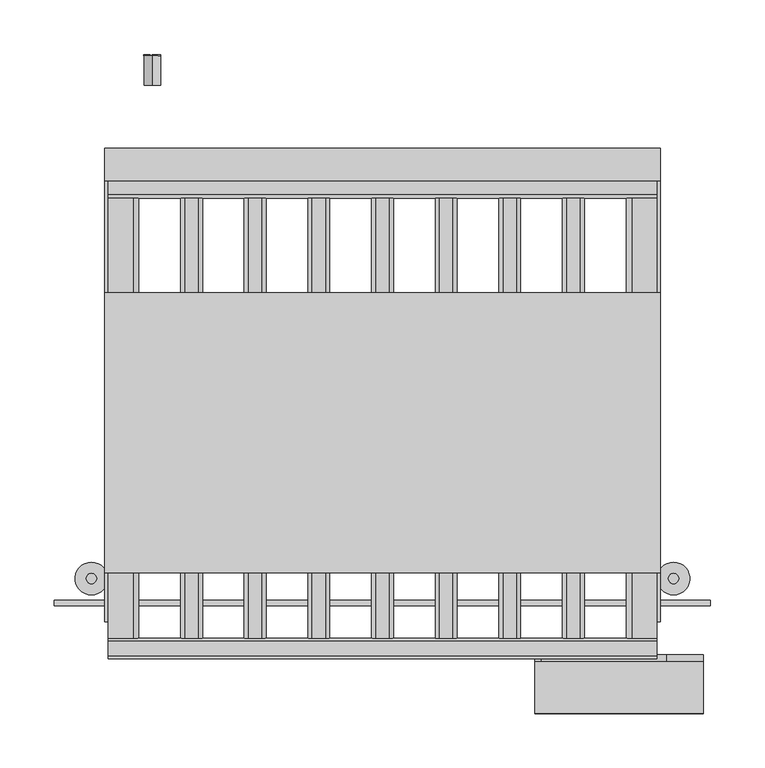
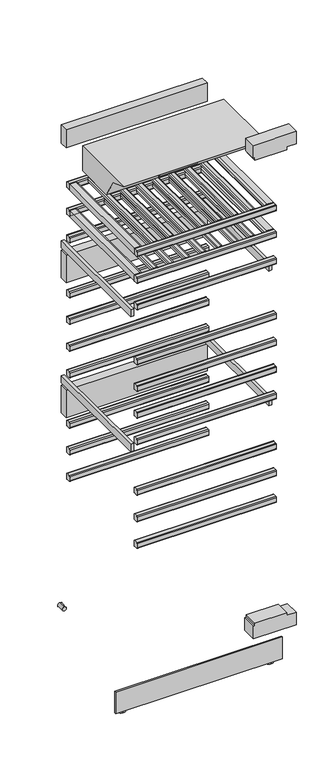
"""IFC4 building model written with IfcOpenShell, lengths in millimetres: proxy geometry, 11503590_USA_KWT2602Vi : 36260205_USA_11503590_KWT2602Vi."""

from ifc_helpers import new_model, si_unit, point, frame, frame_2d, origin, place, context, project, spatial, polyline, circle_curve, trimmed, segment, composite_curve, outline, extrude, source, transform, mapped, element, save
from ifc_brep_helpers import plane_surface, cylinder_surface, advanced_brep


def specialty_equipment_7431087e(model_context):
    return source(origin(), model_context, "Body", "SolidModel", [
        extrude(outline(composite_curve([segment(polyline([(53.0, 680.0), (66.0, 680.0)]), True, "CONTINUOUS"), segment(trimmed(circle_curve(frame_2d((66.0, 677.0)), 3.0), [point((66.0, 680.0))], [point((69.0, 677.0))], False, "CARTESIAN"), True, "CONTINUOUS"), segment(polyline([(69.0, 677.0), (69.0, 661.0)]), True, "CONTINUOUS"), segment(trimmed(circle_curve(frame_2d((66.0, 661.0)), 3.0), [point((69.0, 661.0))], [point((66.0, 658.0))], False, "CARTESIAN"), True, "CONTINUOUS"), segment(polyline([(66.0, 658.0), (53.0, 658.0)]), True, "CONTINUOUS"), segment(trimmed(circle_curve(frame_2d((53.0, 661.0)), 3.0), [point((53.0, 658.0))], [point((50.0, 661.0))], False, "CARTESIAN"), True, "CONTINUOUS"), segment(polyline([(50.0, 661.0), (50.0, 677.0)]), True, "CONTINUOUS"), segment(trimmed(circle_curve(frame_2d((53.0, 677.0)), 3.0), [point((50.0, 677.0))], [point((53.0, 680.0))], False, "CARTESIAN"), True, "CONTINUOUS")], self_intersect=False)), frame((-252.0, 0.0, 0.0), z_axis=(1.0, 0.0, 0.0), x_axis=(0.0, 1.0, 0.0)), (0.0, 0.0, 1.0), 504.0),
        extrude(outline(composite_curve([segment(polyline([(476.0, 680.0), (489.0, 680.0)]), True, "CONTINUOUS"), segment(trimmed(circle_curve(frame_2d((489.0, 677.0)), 3.0), [point((489.0, 680.0))], [point((492.0, 677.0))], False, "CARTESIAN"), True, "CONTINUOUS"), segment(polyline([(492.0, 677.0), (492.0, 661.0)]), True, "CONTINUOUS"), segment(trimmed(circle_curve(frame_2d((489.0, 661.0)), 3.0), [point((492.0, 661.0))], [point((489.0, 658.0))], False, "CARTESIAN"), True, "CONTINUOUS"), segment(polyline([(489.0, 658.0), (476.0, 658.0)]), True, "CONTINUOUS"), segment(trimmed(circle_curve(frame_2d((476.0, 661.0)), 3.0), [point((476.0, 658.0))], [point((473.0, 661.0))], False, "CARTESIAN"), True, "CONTINUOUS"), segment(polyline([(473.0, 661.0), (473.0, 677.0)]), True, "CONTINUOUS"), segment(trimmed(circle_curve(frame_2d((476.0, 677.0)), 3.0), [point((473.0, 677.0))], [point((476.0, 680.0))], False, "CARTESIAN"), True, "CONTINUOUS")], self_intersect=False)), frame((-252.0, 0.0, 0.0), z_axis=(1.0, 0.0, 0.0), x_axis=(0.0, 1.0, 0.0)), (0.0, 0.0, 1.0), 504.0),
        extrude(outline(composite_curve([segment(polyline([(53.0, 782.0), (66.0, 782.0)]), True, "CONTINUOUS"), segment(trimmed(circle_curve(frame_2d((66.0, 779.0)), 3.0), [point((66.0, 782.0))], [point((69.0, 779.0))], False, "CARTESIAN"), True, "CONTINUOUS"), segment(polyline([(69.0, 779.0), (69.0, 763.0)]), True, "CONTINUOUS"), segment(trimmed(circle_curve(frame_2d((66.0, 763.0)), 3.0), [point((69.0, 763.0))], [point((66.0, 760.0))], False, "CARTESIAN"), True, "CONTINUOUS"), segment(polyline([(66.0, 760.0), (53.0, 760.0)]), True, "CONTINUOUS"), segment(trimmed(circle_curve(frame_2d((53.0, 763.0)), 3.0), [point((53.0, 760.0))], [point((50.0, 763.0))], False, "CARTESIAN"), True, "CONTINUOUS"), segment(polyline([(50.0, 763.0), (50.0, 779.0)]), True, "CONTINUOUS"), segment(trimmed(circle_curve(frame_2d((53.0, 779.0)), 3.0), [point((50.0, 779.0))], [point((53.0, 782.0))], False, "CARTESIAN"), True, "CONTINUOUS")], self_intersect=False)), frame((-252.0, 0.0, 0.0), z_axis=(1.0, 0.0, 0.0), x_axis=(0.0, 1.0, 0.0)), (0.0, 0.0, 1.0), 504.0),
        extrude(outline(composite_curve([segment(polyline([(476.0, 782.0), (489.0, 782.0)]), True, "CONTINUOUS"), segment(trimmed(circle_curve(frame_2d((489.0, 779.0)), 3.0), [point((489.0, 782.0))], [point((492.0, 779.0))], False, "CARTESIAN"), True, "CONTINUOUS"), segment(polyline([(492.0, 779.0), (492.0, 763.0)]), True, "CONTINUOUS"), segment(trimmed(circle_curve(frame_2d((489.0, 763.0)), 3.0), [point((492.0, 763.0))], [point((489.0, 760.0))], False, "CARTESIAN"), True, "CONTINUOUS"), segment(polyline([(489.0, 760.0), (476.0, 760.0)]), True, "CONTINUOUS"), segment(trimmed(circle_curve(frame_2d((476.0, 763.0)), 3.0), [point((476.0, 760.0))], [point((473.0, 763.0))], False, "CARTESIAN"), True, "CONTINUOUS"), segment(polyline([(473.0, 763.0), (473.0, 779.0)]), True, "CONTINUOUS"), segment(trimmed(circle_curve(frame_2d((476.0, 779.0)), 3.0), [point((473.0, 779.0))], [point((476.0, 782.0))], False, "CARTESIAN"), True, "CONTINUOUS")], self_intersect=False)), frame((-252.0, 0.0, 0.0), z_axis=(1.0, 0.0, 0.0), x_axis=(0.0, 1.0, 0.0)), (0.0, 0.0, 1.0), 504.0),
        extrude(outline(composite_curve([segment(polyline([(53.0, 884.0), (66.0, 884.0)]), True, "CONTINUOUS"), segment(trimmed(circle_curve(frame_2d((66.0, 881.0)), 3.0), [point((66.0, 884.0))], [point((69.0, 881.0))], False, "CARTESIAN"), True, "CONTINUOUS"), segment(polyline([(69.0, 881.0), (69.0, 865.0)]), True, "CONTINUOUS"), segment(trimmed(circle_curve(frame_2d((66.0, 865.0)), 3.0), [point((69.0, 865.0))], [point((66.0, 862.0))], False, "CARTESIAN"), True, "CONTINUOUS"), segment(polyline([(66.0, 862.0), (53.0, 862.0)]), True, "CONTINUOUS"), segment(trimmed(circle_curve(frame_2d((53.0, 865.0)), 3.0), [point((53.0, 862.0))], [point((50.0, 865.0))], False, "CARTESIAN"), True, "CONTINUOUS"), segment(polyline([(50.0, 865.0), (50.0, 881.0)]), True, "CONTINUOUS"), segment(trimmed(circle_curve(frame_2d((53.0, 881.0)), 3.0), [point((50.0, 881.0))], [point((53.0, 884.0))], False, "CARTESIAN"), True, "CONTINUOUS")], self_intersect=False)), frame((-252.0, 0.0, 0.0), z_axis=(1.0, 0.0, 0.0), x_axis=(0.0, 1.0, 0.0)), (0.0, 0.0, 1.0), 504.0),
        extrude(outline(composite_curve([segment(polyline([(476.0, 884.0), (489.0, 884.0)]), True, "CONTINUOUS"), segment(trimmed(circle_curve(frame_2d((489.0, 881.0)), 3.0), [point((489.0, 884.0))], [point((492.0, 881.0))], False, "CARTESIAN"), True, "CONTINUOUS"), segment(polyline([(492.0, 881.0), (492.0, 865.0)]), True, "CONTINUOUS"), segment(trimmed(circle_curve(frame_2d((489.0, 865.0)), 3.0), [point((492.0, 865.0))], [point((489.0, 862.0))], False, "CARTESIAN"), True, "CONTINUOUS"), segment(polyline([(489.0, 862.0), (476.0, 862.0)]), True, "CONTINUOUS"), segment(trimmed(circle_curve(frame_2d((476.0, 865.0)), 3.0), [point((476.0, 862.0))], [point((473.0, 865.0))], False, "CARTESIAN"), True, "CONTINUOUS"), segment(polyline([(473.0, 865.0), (473.0, 881.0)]), True, "CONTINUOUS"), segment(trimmed(circle_curve(frame_2d((476.0, 881.0)), 3.0), [point((473.0, 881.0))], [point((476.0, 884.0))], False, "CARTESIAN"), True, "CONTINUOUS")], self_intersect=False)), frame((-252.0, 0.0, 0.0), z_axis=(1.0, 0.0, 0.0), x_axis=(0.0, 1.0, 0.0)), (0.0, 0.0, 1.0), 504.0),
        extrude(outline(composite_curve([segment(polyline([(53.0, 1077.0), (66.0, 1077.0)]), True, "CONTINUOUS"), segment(trimmed(circle_curve(frame_2d((66.0, 1074.0)), 3.0), [point((66.0, 1077.0))], [point((69.0, 1074.0))], False, "CARTESIAN"), True, "CONTINUOUS"), segment(polyline([(69.0, 1074.0), (69.0, 1058.0)]), True, "CONTINUOUS"), segment(trimmed(circle_curve(frame_2d((66.0, 1058.0)), 3.0), [point((69.0, 1058.0))], [point((66.0, 1055.0))], False, "CARTESIAN"), True, "CONTINUOUS"), segment(polyline([(66.0, 1055.0), (53.0, 1055.0)]), True, "CONTINUOUS"), segment(trimmed(circle_curve(frame_2d((53.0, 1058.0)), 3.0), [point((53.0, 1055.0))], [point((50.0, 1058.0))], False, "CARTESIAN"), True, "CONTINUOUS"), segment(polyline([(50.0, 1058.0), (50.0, 1074.0)]), True, "CONTINUOUS"), segment(trimmed(circle_curve(frame_2d((53.0, 1074.0)), 3.0), [point((50.0, 1074.0))], [point((53.0, 1077.0))], False, "CARTESIAN"), True, "CONTINUOUS")], self_intersect=False)), frame((-252.0, 0.0, 0.0), z_axis=(1.0, 0.0, 0.0), x_axis=(0.0, 1.0, 0.0)), (0.0, 0.0, 1.0), 504.0),
        extrude(outline(composite_curve([segment(polyline([(476.0, 1077.0), (489.0, 1077.0)]), True, "CONTINUOUS"), segment(trimmed(circle_curve(frame_2d((489.0, 1074.0)), 3.0), [point((489.0, 1077.0))], [point((492.0, 1074.0))], False, "CARTESIAN"), True, "CONTINUOUS"), segment(polyline([(492.0, 1074.0), (492.0, 1058.0)]), True, "CONTINUOUS"), segment(trimmed(circle_curve(frame_2d((489.0, 1058.0)), 3.0), [point((492.0, 1058.0))], [point((489.0, 1055.0))], False, "CARTESIAN"), True, "CONTINUOUS"), segment(polyline([(489.0, 1055.0), (476.0, 1055.0)]), True, "CONTINUOUS"), segment(trimmed(circle_curve(frame_2d((476.0, 1058.0)), 3.0), [point((476.0, 1055.0))], [point((473.0, 1058.0))], False, "CARTESIAN"), True, "CONTINUOUS"), segment(polyline([(473.0, 1058.0), (473.0, 1074.0)]), True, "CONTINUOUS"), segment(trimmed(circle_curve(frame_2d((476.0, 1074.0)), 3.0), [point((473.0, 1074.0))], [point((476.0, 1077.0))], False, "CARTESIAN"), True, "CONTINUOUS")], self_intersect=False)), frame((-252.0, 0.0, 0.0), z_axis=(1.0, 0.0, 0.0), x_axis=(0.0, 1.0, 0.0)), (0.0, 0.0, 1.0), 504.0),
        extrude(outline(composite_curve([segment(polyline([(53.0, 1179.0), (66.0, 1179.0)]), True, "CONTINUOUS"), segment(trimmed(circle_curve(frame_2d((66.0, 1176.0)), 3.0), [point((66.0, 1179.0))], [point((69.0, 1176.0))], False, "CARTESIAN"), True, "CONTINUOUS"), segment(polyline([(69.0, 1176.0), (69.0, 1160.0)]), True, "CONTINUOUS"), segment(trimmed(circle_curve(frame_2d((66.0, 1160.0)), 3.0), [point((69.0, 1160.0))], [point((66.0, 1157.0))], False, "CARTESIAN"), True, "CONTINUOUS"), segment(polyline([(66.0, 1157.0), (53.0, 1157.0)]), True, "CONTINUOUS"), segment(trimmed(circle_curve(frame_2d((53.0, 1160.0)), 3.0), [point((53.0, 1157.0))], [point((50.0, 1160.0))], False, "CARTESIAN"), True, "CONTINUOUS"), segment(polyline([(50.0, 1160.0), (50.0, 1176.0)]), True, "CONTINUOUS"), segment(trimmed(circle_curve(frame_2d((53.0, 1176.0)), 3.0), [point((50.0, 1176.0))], [point((53.0, 1179.0))], False, "CARTESIAN"), True, "CONTINUOUS")], self_intersect=False)), frame((-252.0, 0.0, 0.0), z_axis=(1.0, 0.0, 0.0), x_axis=(0.0, 1.0, 0.0)), (0.0, 0.0, 1.0), 504.0),
        extrude(outline(composite_curve([segment(polyline([(476.0, 1179.0), (489.0, 1179.0)]), True, "CONTINUOUS"), segment(trimmed(circle_curve(frame_2d((489.0, 1176.0)), 3.0), [point((489.0, 1179.0))], [point((492.0, 1176.0))], False, "CARTESIAN"), True, "CONTINUOUS"), segment(polyline([(492.0, 1176.0), (492.0, 1160.0)]), True, "CONTINUOUS"), segment(trimmed(circle_curve(frame_2d((489.0, 1160.0)), 3.0), [point((492.0, 1160.0))], [point((489.0, 1157.0))], False, "CARTESIAN"), True, "CONTINUOUS"), segment(polyline([(489.0, 1157.0), (476.0, 1157.0)]), True, "CONTINUOUS"), segment(trimmed(circle_curve(frame_2d((476.0, 1160.0)), 3.0), [point((476.0, 1157.0))], [point((473.0, 1160.0))], False, "CARTESIAN"), True, "CONTINUOUS"), segment(polyline([(473.0, 1160.0), (473.0, 1176.0)]), True, "CONTINUOUS"), segment(trimmed(circle_curve(frame_2d((476.0, 1176.0)), 3.0), [point((473.0, 1176.0))], [point((476.0, 1179.0))], False, "CARTESIAN"), True, "CONTINUOUS")], self_intersect=False)), frame((-252.0, 0.0, 0.0), z_axis=(1.0, 0.0, 0.0), x_axis=(0.0, 1.0, 0.0)), (0.0, 0.0, 1.0), 504.0),
        extrude(outline(composite_curve([segment(polyline([(53.0, 1281.0), (66.0, 1281.0)]), True, "CONTINUOUS"), segment(trimmed(circle_curve(frame_2d((66.0, 1278.0)), 3.0), [point((66.0, 1281.0))], [point((69.0, 1278.0))], False, "CARTESIAN"), True, "CONTINUOUS"), segment(polyline([(69.0, 1278.0), (69.0, 1262.0)]), True, "CONTINUOUS"), segment(trimmed(circle_curve(frame_2d((66.0, 1262.0)), 3.0), [point((69.0, 1262.0))], [point((66.0, 1259.0))], False, "CARTESIAN"), True, "CONTINUOUS"), segment(polyline([(66.0, 1259.0), (53.0, 1259.0)]), True, "CONTINUOUS"), segment(trimmed(circle_curve(frame_2d((53.0, 1262.0)), 3.0), [point((53.0, 1259.0))], [point((50.0, 1262.0))], False, "CARTESIAN"), True, "CONTINUOUS"), segment(polyline([(50.0, 1262.0), (50.0, 1278.0)]), True, "CONTINUOUS"), segment(trimmed(circle_curve(frame_2d((53.0, 1278.0)), 3.0), [point((50.0, 1278.0))], [point((53.0, 1281.0))], False, "CARTESIAN"), True, "CONTINUOUS")], self_intersect=False)), frame((-252.0, 0.0, 0.0), z_axis=(1.0, 0.0, 0.0), x_axis=(0.0, 1.0, 0.0)), (0.0, 0.0, 1.0), 504.0),
        extrude(outline(composite_curve([segment(polyline([(476.0, 1281.0), (489.0, 1281.0)]), True, "CONTINUOUS"), segment(trimmed(circle_curve(frame_2d((489.0, 1278.0)), 3.0), [point((489.0, 1281.0))], [point((492.0, 1278.0))], False, "CARTESIAN"), True, "CONTINUOUS"), segment(polyline([(492.0, 1278.0), (492.0, 1262.0)]), True, "CONTINUOUS"), segment(trimmed(circle_curve(frame_2d((489.0, 1262.0)), 3.0), [point((492.0, 1262.0))], [point((489.0, 1259.0))], False, "CARTESIAN"), True, "CONTINUOUS"), segment(polyline([(489.0, 1259.0), (476.0, 1259.0)]), True, "CONTINUOUS"), segment(trimmed(circle_curve(frame_2d((476.0, 1262.0)), 3.0), [point((476.0, 1259.0))], [point((473.0, 1262.0))], False, "CARTESIAN"), True, "CONTINUOUS"), segment(polyline([(473.0, 1262.0), (473.0, 1278.0)]), True, "CONTINUOUS"), segment(trimmed(circle_curve(frame_2d((476.0, 1278.0)), 3.0), [point((473.0, 1278.0))], [point((476.0, 1281.0))], False, "CARTESIAN"), True, "CONTINUOUS")], self_intersect=False)), frame((-252.0, 0.0, 0.0), z_axis=(1.0, 0.0, 0.0), x_axis=(0.0, 1.0, 0.0)), (0.0, 0.0, 1.0), 504.0),
        extrude(outline(composite_curve([segment(polyline([(53.0, 1383.0), (66.0, 1383.0)]), True, "CONTINUOUS"), segment(trimmed(circle_curve(frame_2d((66.0, 1380.0)), 3.0), [point((66.0, 1383.0))], [point((69.0, 1380.0))], False, "CARTESIAN"), True, "CONTINUOUS"), segment(polyline([(69.0, 1380.0), (69.0, 1364.0)]), True, "CONTINUOUS"), segment(trimmed(circle_curve(frame_2d((66.0, 1364.0)), 3.0), [point((69.0, 1364.0))], [point((66.0, 1361.0))], False, "CARTESIAN"), True, "CONTINUOUS"), segment(polyline([(66.0, 1361.0), (53.0, 1361.0)]), True, "CONTINUOUS"), segment(trimmed(circle_curve(frame_2d((53.0, 1364.0)), 3.0), [point((53.0, 1361.0))], [point((50.0, 1364.0))], False, "CARTESIAN"), True, "CONTINUOUS"), segment(polyline([(50.0, 1364.0), (50.0, 1380.0)]), True, "CONTINUOUS"), segment(trimmed(circle_curve(frame_2d((53.0, 1380.0)), 3.0), [point((50.0, 1380.0))], [point((53.0, 1383.0))], False, "CARTESIAN"), True, "CONTINUOUS")], self_intersect=False)), frame((-252.0, 0.0, 0.0), z_axis=(1.0, 0.0, 0.0), x_axis=(0.0, 1.0, 0.0)), (0.0, 0.0, 1.0), 504.0),
        extrude(outline(composite_curve([segment(polyline([(476.0, 1383.0), (489.0, 1383.0)]), True, "CONTINUOUS"), segment(trimmed(circle_curve(frame_2d((489.0, 1380.0)), 3.0), [point((489.0, 1383.0))], [point((492.0, 1380.0))], False, "CARTESIAN"), True, "CONTINUOUS"), segment(polyline([(492.0, 1380.0), (492.0, 1364.0)]), True, "CONTINUOUS"), segment(trimmed(circle_curve(frame_2d((489.0, 1364.0)), 3.0), [point((492.0, 1364.0))], [point((489.0, 1361.0))], False, "CARTESIAN"), True, "CONTINUOUS"), segment(polyline([(489.0, 1361.0), (476.0, 1361.0)]), True, "CONTINUOUS"), segment(trimmed(circle_curve(frame_2d((476.0, 1364.0)), 3.0), [point((476.0, 1361.0))], [point((473.0, 1364.0))], False, "CARTESIAN"), True, "CONTINUOUS"), segment(polyline([(473.0, 1364.0), (473.0, 1380.0)]), True, "CONTINUOUS"), segment(trimmed(circle_curve(frame_2d((476.0, 1380.0)), 3.0), [point((473.0, 1380.0))], [point((476.0, 1383.0))], False, "CARTESIAN"), True, "CONTINUOUS")], self_intersect=False)), frame((-252.0, 0.0, 0.0), z_axis=(1.0, 0.0, 0.0), x_axis=(0.0, 1.0, 0.0)), (0.0, 0.0, 1.0), 504.0),
        extrude(outline(composite_curve([segment(polyline([(53.0, 1593.0), (66.0, 1593.0)]), True, "CONTINUOUS"), segment(trimmed(circle_curve(frame_2d((66.0, 1590.0)), 3.0), [point((66.0, 1593.0))], [point((69.0, 1590.0))], False, "CARTESIAN"), True, "CONTINUOUS"), segment(polyline([(69.0, 1590.0), (69.0, 1574.0)]), True, "CONTINUOUS"), segment(trimmed(circle_curve(frame_2d((66.0, 1574.0)), 3.0), [point((69.0, 1574.0))], [point((66.0, 1571.0))], False, "CARTESIAN"), True, "CONTINUOUS"), segment(polyline([(66.0, 1571.0), (53.0, 1571.0)]), True, "CONTINUOUS"), segment(trimmed(circle_curve(frame_2d((53.0, 1574.0)), 3.0), [point((53.0, 1571.0))], [point((50.0, 1574.0))], False, "CARTESIAN"), True, "CONTINUOUS"), segment(polyline([(50.0, 1574.0), (50.0, 1590.0)]), True, "CONTINUOUS"), segment(trimmed(circle_curve(frame_2d((53.0, 1590.0)), 3.0), [point((50.0, 1590.0))], [point((53.0, 1593.0))], False, "CARTESIAN"), True, "CONTINUOUS")], self_intersect=False)), frame((-252.0, 0.0, 0.0), z_axis=(1.0, 0.0, 0.0), x_axis=(0.0, 1.0, 0.0)), (0.0, 0.0, 1.0), 504.0),
        extrude(outline(composite_curve([segment(polyline([(476.0, 1593.0), (489.0, 1593.0)]), True, "CONTINUOUS"), segment(trimmed(circle_curve(frame_2d((489.0, 1590.0)), 3.0), [point((489.0, 1593.0))], [point((492.0, 1590.0))], False, "CARTESIAN"), True, "CONTINUOUS"), segment(polyline([(492.0, 1590.0), (492.0, 1574.0)]), True, "CONTINUOUS"), segment(trimmed(circle_curve(frame_2d((489.0, 1574.0)), 3.0), [point((492.0, 1574.0))], [point((489.0, 1571.0))], False, "CARTESIAN"), True, "CONTINUOUS"), segment(polyline([(489.0, 1571.0), (476.0, 1571.0)]), True, "CONTINUOUS"), segment(trimmed(circle_curve(frame_2d((476.0, 1574.0)), 3.0), [point((476.0, 1571.0))], [point((473.0, 1574.0))], False, "CARTESIAN"), True, "CONTINUOUS"), segment(polyline([(473.0, 1574.0), (473.0, 1590.0)]), True, "CONTINUOUS"), segment(trimmed(circle_curve(frame_2d((476.0, 1590.0)), 3.0), [point((473.0, 1590.0))], [point((476.0, 1593.0))], False, "CARTESIAN"), True, "CONTINUOUS")], self_intersect=False)), frame((-252.0, 0.0, 0.0), z_axis=(1.0, 0.0, 0.0), x_axis=(0.0, 1.0, 0.0)), (0.0, 0.0, 1.0), 504.0),
        extrude(outline(composite_curve([segment(polyline([(53.0, 1695.0), (66.0, 1695.0)]), True, "CONTINUOUS"), segment(trimmed(circle_curve(frame_2d((66.0, 1692.0)), 3.0), [point((66.0, 1695.0))], [point((69.0, 1692.0))], False, "CARTESIAN"), True, "CONTINUOUS"), segment(polyline([(69.0, 1692.0), (69.0, 1676.0)]), True, "CONTINUOUS"), segment(trimmed(circle_curve(frame_2d((66.0, 1676.0)), 3.0), [point((69.0, 1676.0))], [point((66.0, 1673.0))], False, "CARTESIAN"), True, "CONTINUOUS"), segment(polyline([(66.0, 1673.0), (53.0, 1673.0)]), True, "CONTINUOUS"), segment(trimmed(circle_curve(frame_2d((53.0, 1676.0)), 3.0), [point((53.0, 1673.0))], [point((50.0, 1676.0))], False, "CARTESIAN"), True, "CONTINUOUS"), segment(polyline([(50.0, 1676.0), (50.0, 1692.0)]), True, "CONTINUOUS"), segment(trimmed(circle_curve(frame_2d((53.0, 1692.0)), 3.0), [point((50.0, 1692.0))], [point((53.0, 1695.0))], False, "CARTESIAN"), True, "CONTINUOUS")], self_intersect=False)), frame((-252.0, 0.0, 0.0), z_axis=(1.0, 0.0, 0.0), x_axis=(0.0, 1.0, 0.0)), (0.0, 0.0, 1.0), 504.0),
        extrude(outline(composite_curve([segment(polyline([(476.0, 1695.0), (489.0, 1695.0)]), True, "CONTINUOUS"), segment(trimmed(circle_curve(frame_2d((489.0, 1692.0)), 3.0), [point((489.0, 1695.0))], [point((492.0, 1692.0))], False, "CARTESIAN"), True, "CONTINUOUS"), segment(polyline([(492.0, 1692.0), (492.0, 1676.0)]), True, "CONTINUOUS"), segment(trimmed(circle_curve(frame_2d((489.0, 1676.0)), 3.0), [point((492.0, 1676.0))], [point((489.0, 1673.0))], False, "CARTESIAN"), True, "CONTINUOUS"), segment(polyline([(489.0, 1673.0), (476.0, 1673.0)]), True, "CONTINUOUS"), segment(trimmed(circle_curve(frame_2d((476.0, 1676.0)), 3.0), [point((476.0, 1673.0))], [point((473.0, 1676.0))], False, "CARTESIAN"), True, "CONTINUOUS"), segment(polyline([(473.0, 1676.0), (473.0, 1692.0)]), True, "CONTINUOUS"), segment(trimmed(circle_curve(frame_2d((476.0, 1692.0)), 3.0), [point((473.0, 1692.0))], [point((476.0, 1695.0))], False, "CARTESIAN"), True, "CONTINUOUS")], self_intersect=False)), frame((-252.0, 0.0, 0.0), z_axis=(1.0, 0.0, 0.0), x_axis=(0.0, 1.0, 0.0)), (0.0, 0.0, 1.0), 504.0),
        extrude(outline(composite_curve([segment(polyline([(1695.0, -252.0), (1673.0, -252.0), (1673.0, -229.0)]), True, "CONTINUOUS"), segment(trimmed(circle_curve(frame_2d((1678.0, -229.0)), 5.0), [point((1673.0, -229.0))], [point((1678.0, -224.0))], False, "CARTESIAN"), True, "CONTINUOUS"), segment(polyline([(1678.0, -224.0), (1690.0, -224.0)]), True, "CONTINUOUS"), segment(trimmed(circle_curve(frame_2d((1690.0, -229.0)), 5.0), [point((1690.0, -224.0))], [point((1695.0, -229.0))], False, "CARTESIAN"), True, "CONTINUOUS"), segment(polyline([(1695.0, -229.0), (1695.0, -252.0)]), True, "CONTINUOUS")], self_intersect=False)), frame((0.0, 69.0, 0.0), z_axis=(0.0, 1.0, 0.0), x_axis=(0.0, 0.0, 1.0)), (0.0, 0.0, 1.0), 404.0),
        extrude(outline(composite_curve([segment(polyline([(1691.0, -185.5), (1683.039218, -185.5), (1683.039218, -165.5), (1691.0, -165.5)]), True, "CONTINUOUS"), segment(trimmed(circle_curve(frame_2d((1691.0, -169.5)), 4.0), [point((1691.0, -165.5))], [point((1695.0, -169.5))], False, "CARTESIAN"), True, "CONTINUOUS"), segment(polyline([(1695.0, -169.5), (1695.0, -181.5)]), True, "CONTINUOUS"), segment(trimmed(circle_curve(frame_2d((1691.0, -181.5)), 4.0), [point((1695.0, -181.5))], [point((1691.0, -185.5))], False, "CARTESIAN"), True, "CONTINUOUS")], self_intersect=False)), frame((0.0, 69.0, 0.0), z_axis=(0.0, 1.0, 0.0), x_axis=(0.0, 0.0, 1.0)), (0.0, 0.0, 1.0), 404.0),
        extrude(outline(composite_curve([segment(polyline([(1695.0, 252.0), (1695.0, 229.0)]), True, "CONTINUOUS"), segment(trimmed(circle_curve(frame_2d((1690.0, 229.0)), 5.0), [point((1695.0, 229.0))], [point((1690.0, 224.0))], False, "CARTESIAN"), True, "CONTINUOUS"), segment(polyline([(1690.0, 224.0), (1678.0, 224.0)]), True, "CONTINUOUS"), segment(trimmed(circle_curve(frame_2d((1678.0, 229.0)), 5.0), [point((1678.0, 224.0))], [point((1673.0, 229.0))], False, "CARTESIAN"), True, "CONTINUOUS"), segment(polyline([(1673.0, 229.0), (1673.0, 252.0), (1695.0, 252.0)]), True, "CONTINUOUS")], self_intersect=False)), frame((0.0, 69.0, 0.0), z_axis=(0.0, 1.0, 0.0), x_axis=(0.0, 0.0, 1.0)), (0.0, 0.0, 1.0), 404.0),
        extrude(outline(composite_curve([segment(polyline([(1691.0, -127.0), (1683.039218, -127.0), (1683.039218, -107.0), (1691.0, -107.0)]), True, "CONTINUOUS"), segment(trimmed(circle_curve(frame_2d((1691.0, -111.0)), 4.0), [point((1691.0, -107.0))], [point((1695.0, -111.0))], False, "CARTESIAN"), True, "CONTINUOUS"), segment(polyline([(1695.0, -111.0), (1695.0, -123.0)]), True, "CONTINUOUS"), segment(trimmed(circle_curve(frame_2d((1691.0, -123.0)), 4.0), [point((1695.0, -123.0))], [point((1691.0, -127.0))], False, "CARTESIAN"), True, "CONTINUOUS")], self_intersect=False)), frame((0.0, 69.0, 0.0), z_axis=(0.0, 1.0, 0.0), x_axis=(0.0, 0.0, 1.0)), (0.0, 0.0, 1.0), 404.0),
        extrude(outline(composite_curve([segment(polyline([(1691.0, -68.5), (1683.039218, -68.5), (1683.039218, -48.5), (1691.0, -48.5)]), True, "CONTINUOUS"), segment(trimmed(circle_curve(frame_2d((1691.0, -52.5)), 4.0), [point((1691.0, -48.5))], [point((1695.0, -52.5))], False, "CARTESIAN"), True, "CONTINUOUS"), segment(polyline([(1695.0, -52.5), (1695.0, -64.5)]), True, "CONTINUOUS"), segment(trimmed(circle_curve(frame_2d((1691.0, -64.5)), 4.0), [point((1695.0, -64.5))], [point((1691.0, -68.5))], False, "CARTESIAN"), True, "CONTINUOUS")], self_intersect=False)), frame((0.0, 69.0, 0.0), z_axis=(0.0, 1.0, 0.0), x_axis=(0.0, 0.0, 1.0)), (0.0, 0.0, 1.0), 404.0),
        extrude(outline(composite_curve([segment(polyline([(1691.0, -10.0), (1683.039218, -10.0), (1683.039218, 10.0), (1691.0, 10.0)]), True, "CONTINUOUS"), segment(trimmed(circle_curve(frame_2d((1691.0, 6.0)), 4.0), [point((1691.0, 10.0))], [point((1695.0, 6.0))], False, "CARTESIAN"), True, "CONTINUOUS"), segment(polyline([(1695.0, 6.0), (1695.0, -6.0)]), True, "CONTINUOUS"), segment(trimmed(circle_curve(frame_2d((1691.0, -6.0)), 4.0), [point((1695.0, -6.0))], [point((1691.0, -10.0))], False, "CARTESIAN"), True, "CONTINUOUS")], self_intersect=False)), frame((0.0, 69.0, 0.0), z_axis=(0.0, 1.0, 0.0), x_axis=(0.0, 0.0, 1.0)), (0.0, 0.0, 1.0), 404.0),
        extrude(outline(composite_curve([segment(polyline([(1691.0, 48.5), (1683.039218, 48.5), (1683.039218, 68.5), (1691.0, 68.5)]), True, "CONTINUOUS"), segment(trimmed(circle_curve(frame_2d((1691.0, 64.5)), 4.0), [point((1691.0, 68.5))], [point((1695.0, 64.5))], False, "CARTESIAN"), True, "CONTINUOUS"), segment(polyline([(1695.0, 64.5), (1695.0, 52.5)]), True, "CONTINUOUS"), segment(trimmed(circle_curve(frame_2d((1691.0, 52.5)), 4.0), [point((1695.0, 52.5))], [point((1691.0, 48.5))], False, "CARTESIAN"), True, "CONTINUOUS")], self_intersect=False)), frame((0.0, 69.0, 0.0), z_axis=(0.0, 1.0, 0.0), x_axis=(0.0, 0.0, 1.0)), (0.0, 0.0, 1.0), 404.0),
        extrude(outline(composite_curve([segment(polyline([(1691.0, 107.0), (1683.039218, 107.0), (1683.039218, 127.0), (1691.0, 127.0)]), True, "CONTINUOUS"), segment(trimmed(circle_curve(frame_2d((1691.0, 123.0)), 4.0), [point((1691.0, 127.0))], [point((1695.0, 123.0))], False, "CARTESIAN"), True, "CONTINUOUS"), segment(polyline([(1695.0, 123.0), (1695.0, 111.0)]), True, "CONTINUOUS"), segment(trimmed(circle_curve(frame_2d((1691.0, 111.0)), 4.0), [point((1695.0, 111.0))], [point((1691.0, 107.0))], False, "CARTESIAN"), True, "CONTINUOUS")], self_intersect=False)), frame((0.0, 69.0, 0.0), z_axis=(0.0, 1.0, 0.0), x_axis=(0.0, 0.0, 1.0)), (0.0, 0.0, 1.0), 404.0),
        extrude(outline(composite_curve([segment(polyline([(1691.0, 165.5), (1683.039218, 165.5), (1683.039218, 185.5), (1691.0, 185.5)]), True, "CONTINUOUS"), segment(trimmed(circle_curve(frame_2d((1691.0, 181.5)), 4.0), [point((1691.0, 185.5))], [point((1695.0, 181.5))], False, "CARTESIAN"), True, "CONTINUOUS"), segment(polyline([(1695.0, 181.5), (1695.0, 169.5)]), True, "CONTINUOUS"), segment(trimmed(circle_curve(frame_2d((1691.0, 169.5)), 4.0), [point((1695.0, 169.5))], [point((1691.0, 165.5))], False, "CARTESIAN"), True, "CONTINUOUS")], self_intersect=False)), frame((0.0, 69.0, 0.0), z_axis=(0.0, 1.0, 0.0), x_axis=(0.0, 0.0, 1.0)), (0.0, 0.0, 1.0), 404.0),
        extrude(outline(composite_curve([segment(polyline([(1797.0, -229.0), (1797.0, -252.0), (1775.0, -252.0), (1775.0, -229.0)]), True, "CONTINUOUS"), segment(trimmed(circle_curve(frame_2d((1780.0, -229.0)), 5.0), [point((1775.0, -229.0))], [point((1780.0, -224.0))], False, "CARTESIAN"), True, "CONTINUOUS"), segment(polyline([(1780.0, -224.0), (1792.0, -224.0)]), True, "CONTINUOUS"), segment(trimmed(circle_curve(frame_2d((1792.0, -229.0)), 5.0), [point((1792.0, -224.0))], [point((1797.0, -229.0))], False, "CARTESIAN"), True, "CONTINUOUS")], self_intersect=False)), frame((0.0, 69.0, 0.0), z_axis=(0.0, 1.0, 0.0), x_axis=(0.0, 0.0, 1.0)), (0.0, 0.0, 1.0), 404.0),
        extrude(outline(composite_curve([segment(polyline([(1797.0, -169.5), (1797.0, -181.5)]), True, "CONTINUOUS"), segment(trimmed(circle_curve(frame_2d((1793.0, -181.5)), 4.0), [point((1797.0, -181.5))], [point((1793.0, -185.5))], False, "CARTESIAN"), True, "CONTINUOUS"), segment(polyline([(1793.0, -185.5), (1785.0, -185.5), (1785.0, -165.5), (1793.0, -165.5)]), True, "CONTINUOUS"), segment(trimmed(circle_curve(frame_2d((1793.0, -169.5)), 4.0), [point((1793.0, -165.5))], [point((1797.0, -169.5))], False, "CARTESIAN"), True, "CONTINUOUS")], self_intersect=False)), frame((0.0, 69.0, 0.0), z_axis=(0.0, 1.0, 0.0), x_axis=(0.0, 0.0, 1.0)), (0.0, 0.0, 1.0), 404.0),
        extrude(outline(composite_curve([segment(trimmed(circle_curve(frame_2d((1792.0, 229.0)), 5.0), [point((1797.0, 229.0))], [point((1792.0, 224.0))], False, "CARTESIAN"), True, "CONTINUOUS"), segment(polyline([(1792.0, 224.0), (1780.0, 224.0)]), True, "CONTINUOUS"), segment(trimmed(circle_curve(frame_2d((1780.0, 229.0)), 5.0), [point((1780.0, 224.0))], [point((1775.0, 229.0))], False, "CARTESIAN"), True, "CONTINUOUS"), segment(polyline([(1775.0, 229.0), (1775.0, 252.0), (1797.0, 252.0), (1797.0, 229.0)]), True, "CONTINUOUS")], self_intersect=False)), frame((0.0, 69.0, 0.0), z_axis=(0.0, 1.0, 0.0), x_axis=(0.0, 0.0, 1.0)), (0.0, 0.0, 1.0), 404.0),
        extrude(outline(composite_curve([segment(polyline([(1797.0, -111.0), (1797.0, -123.0)]), True, "CONTINUOUS"), segment(trimmed(circle_curve(frame_2d((1793.0, -123.0)), 4.0), [point((1797.0, -123.0))], [point((1793.0, -127.0))], False, "CARTESIAN"), True, "CONTINUOUS"), segment(polyline([(1793.0, -127.0), (1785.0, -127.0), (1785.0, -107.0), (1793.0, -107.0)]), True, "CONTINUOUS"), segment(trimmed(circle_curve(frame_2d((1793.0, -111.0)), 4.0), [point((1793.0, -107.0))], [point((1797.0, -111.0))], False, "CARTESIAN"), True, "CONTINUOUS")], self_intersect=False)), frame((0.0, 69.0, 0.0), z_axis=(0.0, 1.0, 0.0), x_axis=(0.0, 0.0, 1.0)), (0.0, 0.0, 1.0), 404.0),
        extrude(outline(composite_curve([segment(polyline([(1797.0, -52.5), (1797.0, -64.5)]), True, "CONTINUOUS"), segment(trimmed(circle_curve(frame_2d((1793.0, -64.5)), 4.0), [point((1797.0, -64.5))], [point((1793.0, -68.5))], False, "CARTESIAN"), True, "CONTINUOUS"), segment(polyline([(1793.0, -68.5), (1785.0, -68.5), (1785.0, -48.5), (1793.0, -48.5)]), True, "CONTINUOUS"), segment(trimmed(circle_curve(frame_2d((1793.0, -52.5)), 4.0), [point((1793.0, -48.5))], [point((1797.0, -52.5))], False, "CARTESIAN"), True, "CONTINUOUS")], self_intersect=False)), frame((0.0, 69.0, 0.0), z_axis=(0.0, 1.0, 0.0), x_axis=(0.0, 0.0, 1.0)), (0.0, 0.0, 1.0), 404.0),
        extrude(outline(composite_curve([segment(polyline([(1797.0, 6.0), (1797.0, -6.0)]), True, "CONTINUOUS"), segment(trimmed(circle_curve(frame_2d((1793.0, -6.0)), 4.0), [point((1797.0, -6.0))], [point((1793.0, -10.0))], False, "CARTESIAN"), True, "CONTINUOUS"), segment(polyline([(1793.0, -10.0), (1785.0, -10.0), (1785.0, 10.0), (1793.0, 10.0)]), True, "CONTINUOUS"), segment(trimmed(circle_curve(frame_2d((1793.0, 6.0)), 4.0), [point((1793.0, 10.0))], [point((1797.0, 6.0))], False, "CARTESIAN"), True, "CONTINUOUS")], self_intersect=False)), frame((0.0, 69.0, 0.0), z_axis=(0.0, 1.0, 0.0), x_axis=(0.0, 0.0, 1.0)), (0.0, 0.0, 1.0), 404.0),
        extrude(outline(composite_curve([segment(polyline([(1797.0, 64.5), (1797.0, 52.5)]), True, "CONTINUOUS"), segment(trimmed(circle_curve(frame_2d((1793.0, 52.5)), 4.0), [point((1797.0, 52.5))], [point((1793.0, 48.5))], False, "CARTESIAN"), True, "CONTINUOUS"), segment(polyline([(1793.0, 48.5), (1785.0, 48.5), (1785.0, 68.5), (1793.0, 68.5)]), True, "CONTINUOUS"), segment(trimmed(circle_curve(frame_2d((1793.0, 64.5)), 4.0), [point((1793.0, 68.5))], [point((1797.0, 64.5))], False, "CARTESIAN"), True, "CONTINUOUS")], self_intersect=False)), frame((0.0, 69.0, 0.0), z_axis=(0.0, 1.0, 0.0), x_axis=(0.0, 0.0, 1.0)), (0.0, 0.0, 1.0), 404.0),
        extrude(outline(composite_curve([segment(polyline([(1797.0, 123.0), (1797.0, 111.0)]), True, "CONTINUOUS"), segment(trimmed(circle_curve(frame_2d((1793.0, 111.0)), 4.0), [point((1797.0, 111.0))], [point((1793.0, 107.0))], False, "CARTESIAN"), True, "CONTINUOUS"), segment(polyline([(1793.0, 107.0), (1785.0, 107.0), (1785.0, 127.0), (1793.0, 127.0)]), True, "CONTINUOUS"), segment(trimmed(circle_curve(frame_2d((1793.0, 123.0)), 4.0), [point((1793.0, 127.0))], [point((1797.0, 123.0))], False, "CARTESIAN"), True, "CONTINUOUS")], self_intersect=False)), frame((0.0, 69.0, 0.0), z_axis=(0.0, 1.0, 0.0), x_axis=(0.0, 0.0, 1.0)), (0.0, 0.0, 1.0), 404.0),
        extrude(outline(composite_curve([segment(polyline([(1797.0, 181.5), (1797.0, 169.5)]), True, "CONTINUOUS"), segment(trimmed(circle_curve(frame_2d((1793.0, 169.5)), 4.0), [point((1797.0, 169.5))], [point((1793.0, 165.5))], False, "CARTESIAN"), True, "CONTINUOUS"), segment(polyline([(1793.0, 165.5), (1785.0, 165.5), (1785.0, 185.5), (1793.0, 185.5)]), True, "CONTINUOUS"), segment(trimmed(circle_curve(frame_2d((1793.0, 181.5)), 4.0), [point((1793.0, 185.5))], [point((1797.0, 181.5))], False, "CARTESIAN"), True, "CONTINUOUS")], self_intersect=False)), frame((0.0, 69.0, 0.0), z_axis=(0.0, 1.0, 0.0), x_axis=(0.0, 0.0, 1.0)), (0.0, 0.0, 1.0), 404.0),
        extrude(outline(composite_curve([segment(polyline([(53.0, 1797.0), (66.0, 1797.0)]), True, "CONTINUOUS"), segment(trimmed(circle_curve(frame_2d((66.0, 1794.0)), 3.0), [point((66.0, 1797.0))], [point((69.0, 1794.0))], False, "CARTESIAN"), True, "CONTINUOUS"), segment(polyline([(69.0, 1794.0), (69.0, 1778.0)]), True, "CONTINUOUS"), segment(trimmed(circle_curve(frame_2d((66.0, 1778.0)), 3.0), [point((69.0, 1778.0))], [point((66.0, 1775.0))], False, "CARTESIAN"), True, "CONTINUOUS"), segment(polyline([(66.0, 1775.0), (53.0, 1775.0)]), True, "CONTINUOUS"), segment(trimmed(circle_curve(frame_2d((53.0, 1778.0)), 3.0), [point((53.0, 1775.0))], [point((50.0, 1778.0))], False, "CARTESIAN"), True, "CONTINUOUS"), segment(polyline([(50.0, 1778.0), (50.0, 1794.0)]), True, "CONTINUOUS"), segment(trimmed(circle_curve(frame_2d((53.0, 1794.0)), 3.0), [point((50.0, 1794.0))], [point((53.0, 1797.0))], False, "CARTESIAN"), True, "CONTINUOUS")], self_intersect=False)), frame((-252.0, 0.0, 0.0), z_axis=(1.0, 0.0, 0.0), x_axis=(0.0, 1.0, 0.0)), (0.0, 0.0, 1.0), 504.0),
        extrude(outline(composite_curve([segment(polyline([(476.0, 1797.0), (489.0, 1797.0)]), True, "CONTINUOUS"), segment(trimmed(circle_curve(frame_2d((489.0, 1794.0)), 3.0), [point((489.0, 1797.0))], [point((492.0, 1794.0))], False, "CARTESIAN"), True, "CONTINUOUS"), segment(polyline([(492.0, 1794.0), (492.0, 1778.0)]), True, "CONTINUOUS"), segment(trimmed(circle_curve(frame_2d((489.0, 1778.0)), 3.0), [point((492.0, 1778.0))], [point((489.0, 1775.0))], False, "CARTESIAN"), True, "CONTINUOUS"), segment(polyline([(489.0, 1775.0), (476.0, 1775.0)]), True, "CONTINUOUS"), segment(trimmed(circle_curve(frame_2d((476.0, 1778.0)), 3.0), [point((476.0, 1775.0))], [point((473.0, 1778.0))], False, "CARTESIAN"), True, "CONTINUOUS"), segment(polyline([(473.0, 1778.0), (473.0, 1794.0)]), True, "CONTINUOUS"), segment(trimmed(circle_curve(frame_2d((476.0, 1794.0)), 3.0), [point((473.0, 1794.0))], [point((476.0, 1797.0))], False, "CARTESIAN"), True, "CONTINUOUS")], self_intersect=False)), frame((-252.0, 0.0, 0.0), z_axis=(1.0, 0.0, 0.0), x_axis=(0.0, 1.0, 0.0)), (0.0, 0.0, 1.0), 504.0),
        extrude(outline(polyline([(195.5, 1968.4), (232.625, 1909.0), (231.4457524, 1909.0), (194.3207524, 1968.4), (195.5, 1968.4)])), frame((-69.0, 0.0, 0.0), z_axis=(1.0, 0.0, 0.0), x_axis=(0.0, 1.0, 0.0)), (0.0, 0.0, 1.0), 138.0),
        extrude(outline(polyline([(386.0, 1998.0), (386.0, 1902.0), (237.0, 1902.0), (192.0, 1974.0), (129.0, 1998.0), (386.0, 1998.0)])), frame((-255.5, 0.0, 0.0), z_axis=(1.0, 0.0, 0.0), x_axis=(0.0, 1.0, 0.0)), (0.0, 0.0, 1.0), 511.0),
        extrude(outline(polyline([(2095.0, 295.0), (2095.0, 140.0), (2047.0, 140.0), (2047.0, 146.0), (2036.5, 146.0), (2036.5, 261.0), (2047.0, 261.0), (2047.0, 295.0), (2095.0, 295.0)])), frame((0.0, 0.0, 0.0), z_axis=(0.0, 1.0, 0.0), x_axis=(0.0, 0.0, 1.0)), (0.0, 0.0, 1.0), 47.0),
        extrude(outline(polyline([(254.0, 140.0), (206.0, 140.0), (206.0, 295.0), (254.0, 295.0), (254.0, 261.0), (264.0, 261.0), (264.0, 146.0), (254.0, 146.0), (254.0, 140.0)])), frame((0.0, 0.0, 0.0), z_axis=(0.0, 1.0, 0.0), x_axis=(0.0, 0.0, 1.0)), (0.0, 0.0, 1.0), 54.0),
        extrude(outline(polyline([(99.0373308, -211.2645771), (97.7615342, -211.2645771), (97.7615342, -205.3195541), (94.7968516, -205.3195541), (94.7968516, -210.969579), (93.5246295, -210.969579), (93.5246295, -205.3415693), (90.2570046, -205.3415693), (90.2570046, -211.4619689), (88.9546219, -211.4619689), (88.9546219, -204.0443524), (99.0373308, -204.0443524), (99.0373308, -211.2645771)])), frame((0.0, 604.0, 0.0), z_axis=(0.0, 1.0, 0.0), x_axis=(0.0, 0.0, 1.0)), (0.0, 0.0, 1.0), 1.0),
        extrude(outline(polyline([(99.0458, -214.5619704), (90.2663944, -214.5619704), (90.2663944, -219.6145879), (89.0134802, -219.6145879), (89.0134802, -213.3423809), (99.0458, -213.3423809), (99.0458, -214.5619704)])), frame((0.0, 604.0, 0.0), z_axis=(0.0, 1.0, 0.0), x_axis=(0.0, 0.0, 1.0)), (0.0, 0.0, 1.0), 1.0),
        extrude(outline(composite_curve([segment(trimmed(circle_curve(frame_2d((94.0, -211.5)), 7.5), [point((86.5, -211.5))], [point((101.5, -211.5))], False, "CARTESIAN"), True, "CONTINUOUS"), segment(trimmed(circle_curve(frame_2d((94.0, -211.5)), 7.5), [point((101.5, -211.5))], [point((86.5, -211.5))], False, "CARTESIAN"), True, "CONTINUOUS")], self_intersect=False)), frame((0.0, 577.0, 0.0), z_axis=(0.0, 1.0, 0.0), x_axis=(0.0, 0.0, 1.0)), (0.0, 0.0, 1.0), 27.0),
        extrude(outline(polyline([(-301.5, 104.0), (301.5, 104.0), (301.5, 99.0), (-301.5, 99.0), (-301.5, 104.0)])), frame((0.0, 0.0, 14.0), z_axis=(0.0, 0.0, 1.0), x_axis=(1.0, 0.0, 0.0)), (0.0, 0.0, 1.0), 83.0),
        extrude(outline(polyline([(-244.5, 519.0), (-244.5, 84.0), (-255.5, 84.0), (-255.5, 519.0), (-244.5, 519.0)])), frame((0.0, 0.0, 1527.0), z_axis=(0.0, 0.0, 1.0), x_axis=(1.0, 0.0, 0.0)), (0.0, 0.0, 1.0), 27.0),
        extrude(outline(polyline([(-244.5, 519.0), (-244.5, 84.0), (-255.5, 84.0), (-255.5, 519.0), (-244.5, 519.0)])), frame((0.0, 0.0, 1011.0), z_axis=(0.0, 0.0, 1.0), x_axis=(1.0, 0.0, 0.0)), (0.0, 0.0, 1.0), 27.0),
        extrude(outline(polyline([(255.5, 519.0), (255.5, 84.0), (244.5, 84.0), (244.5, 519.0), (255.5, 519.0)])), frame((0.0, 0.0, 1527.0), z_axis=(0.0, 0.0, 1.0), x_axis=(1.0, 0.0, 0.0)), (0.0, 0.0, 1.0), 27.0),
        extrude(outline(polyline([(255.5, 519.0), (255.5, 84.0), (244.5, 84.0), (244.5, 519.0), (255.5, 519.0)])), frame((0.0, 0.0, 1011.0), z_axis=(0.0, 0.0, 1.0), x_axis=(1.0, 0.0, 0.0)), (0.0, 0.0, 1.0), 27.0),
        extrude(outline(polyline([(255.5, 519.0), (255.5, 489.0), (-255.5, 489.0), (-255.5, 519.0), (255.5, 519.0)])), frame((0.0, 0.0, 1928.0), z_axis=(0.0, 0.0, 1.0), x_axis=(1.0, 0.0, 0.0)), (0.0, 0.0, 1.0), 70.0),
        extrude(outline(polyline([(255.5, 519.0), (255.5, 489.0), (-255.5, 489.0), (-255.5, 519.0), (255.5, 519.0)])), frame((0.0, 0.0, 1412.0), z_axis=(0.0, 0.0, 1.0), x_axis=(1.0, 0.0, 0.0)), (0.0, 0.0, 1.0), 105.0),
        extrude(outline(polyline([(255.5, 519.0), (255.5, 489.0), (-255.5, 489.0), (-255.5, 519.0), (255.5, 519.0)])), frame((0.0, 0.0, 895.0), z_axis=(0.0, 0.0, 1.0), x_axis=(1.0, 0.0, 0.0)), (0.0, 0.0, 1.0), 105.0),
        advanced_brep(
        [(-267.5, 139.0, 0.0), (-267.5, 109.0, 0.0), (-267.5, 139.0, 7.0), (-267.5, 109.0, 7.0), (-267.5, 128.7, 7.0), (-267.5, 119.3, 7.0), (-267.5, 128.7, 28.0), (-267.5, 119.3, 28.0)],
        [
            (0, 1, circle_curve(frame((-267.5, 124.0, 0.0), z_axis=(0.0, 0.0, -1.0), x_axis=(1.0, 0.0, 0.0)), 15.0)),
            (1, 0, circle_curve(frame((-267.5, 124.0, 0.0), z_axis=(0.0, 0.0, -1.0), x_axis=(1.0, 0.0, 0.0)), 15.0)),
            (2, 3, circle_curve(frame((-267.5, 124.0, 7.0), z_axis=(0.0, 0.0, 1.0), x_axis=(1.0, 0.0, 0.0)), 15.0)),
            (3, 2, circle_curve(frame((-267.5, 124.0, 7.0), z_axis=(0.0, 0.0, 1.0), x_axis=(1.0, 0.0, 0.0)), 15.0)),
            (4, 5, circle_curve(frame((-267.5, 124.0, 7.0), z_axis=(0.0, 0.0, -1.0), x_axis=(0.0, -1.0, 0.0)), 4.7)),
            (5, 4, circle_curve(frame((-267.5, 124.0, 7.0), z_axis=(0.0, 0.0, -1.0), x_axis=(0.0, -1.0, 0.0)), 4.7)),
            (0, 2),
            (3, 1),
            (6, 7, circle_curve(frame((-267.5, 124.0, 28.0), z_axis=(0.0, 0.0, 1.0), x_axis=(0.0, -1.0, 0.0)), 4.7)),
            (7, 6, circle_curve(frame((-267.5, 124.0, 28.0), z_axis=(0.0, 0.0, 1.0), x_axis=(0.0, -1.0, 0.0)), 4.7)),
            (7, 5),
            (4, 6),
        ],
        [
            plane_surface(frame((-252.5, 124.0, 0.0), z_axis=(0.0, 0.0, -1.0), x_axis=(0.0, -1.0, 0.0))),
            plane_surface(frame((-252.5, 124.0, 7.0), z_axis=(0.0, 0.0, 1.0), x_axis=(0.0, 1.0, 0.0))),
            cylinder_surface(frame((-267.5, 124.0, 7.0), z_axis=(0.0, 0.0, -1.0), x_axis=(1.0, 0.0, 0.0)), 15.0),
            plane_surface(frame((-267.5, 119.3, 28.0), z_axis=(0.0, 0.0, 1.0), x_axis=(1.0, 0.0, 0.0))),
            cylinder_surface(frame((-267.5, 124.0, 28.0), z_axis=(0.0, 0.0, -1.0), x_axis=(0.0, -1.0, 0.0)), 4.7),
        ],
        [
            (0, [[1, 2]]),
            (1, [[3, 4], [5, 6]]),
            (2, [[-1, 7, -4, 8]]),
            (2, [[-2, -8, -3, -7]]),
            (3, [[9, 10]]),
            (4, [[-10, 11, -5, 12]]),
            (4, [[-9, -12, -6, -11]]),
        ],
    ),
        advanced_brep(
        [(267.5, 139.0, 0.0), (267.5, 109.0, 0.0), (267.5, 139.0, 7.0), (267.5, 109.0, 7.0), (267.5, 128.7, 7.0), (267.5, 119.3, 7.0), (267.5, 128.7, 28.0), (267.5, 119.3, 28.0)],
        [
            (0, 1, circle_curve(frame((267.5, 124.0, 0.0), z_axis=(0.0, 0.0, -1.0), x_axis=(1.0, 0.0, 0.0)), 15.0)),
            (1, 0, circle_curve(frame((267.5, 124.0, 0.0), z_axis=(0.0, 0.0, -1.0), x_axis=(1.0, 0.0, 0.0)), 15.0)),
            (2, 3, circle_curve(frame((267.5, 124.0, 7.0), z_axis=(0.0, 0.0, 1.0), x_axis=(1.0, 0.0, 0.0)), 15.0)),
            (3, 2, circle_curve(frame((267.5, 124.0, 7.0), z_axis=(0.0, 0.0, 1.0), x_axis=(1.0, 0.0, 0.0)), 15.0)),
            (4, 5, circle_curve(frame((267.5, 124.0, 7.0), z_axis=(0.0, 0.0, -1.0), x_axis=(0.0, -1.0, 0.0)), 4.7)),
            (5, 4, circle_curve(frame((267.5, 124.0, 7.0), z_axis=(0.0, 0.0, -1.0), x_axis=(0.0, -1.0, 0.0)), 4.7)),
            (0, 2),
            (3, 1),
            (6, 7, circle_curve(frame((267.5, 124.0, 28.0), z_axis=(0.0, 0.0, 1.0), x_axis=(0.0, -1.0, 0.0)), 4.7)),
            (7, 6, circle_curve(frame((267.5, 124.0, 28.0), z_axis=(0.0, 0.0, 1.0), x_axis=(0.0, -1.0, 0.0)), 4.7)),
            (7, 5),
            (4, 6),
        ],
        [
            plane_surface(frame((-252.5, 124.0, 0.0), z_axis=(0.0, 0.0, -1.0), x_axis=(0.0, -1.0, 0.0))),
            plane_surface(frame((-252.5, 124.0, 7.0), z_axis=(0.0, 0.0, 1.0), x_axis=(0.0, 1.0, 0.0))),
            cylinder_surface(frame((267.5, 124.0, 7.0), z_axis=(0.0, 0.0, -1.0), x_axis=(1.0, 0.0, 0.0)), 15.0),
            plane_surface(frame((-267.5, 119.3, 28.0), z_axis=(0.0, 0.0, 1.0), x_axis=(1.0, 0.0, 0.0))),
            cylinder_surface(frame((267.5, 124.0, 28.0), z_axis=(0.0, 0.0, -1.0), x_axis=(0.0, -1.0, 0.0)), 4.7),
        ],
        [
            (0, [[1, 2]]),
            (1, [[3, 4], [5, 6]]),
            (2, [[-1, 7, -4, 8]]),
            (2, [[-2, -8, -3, -7]]),
            (3, [[9, 10]]),
            (4, [[-10, 11, -5, 12]]),
            (4, [[-9, -12, -6, -11]]),
        ],
    ),
    ])


if __name__ == "__main__":
    model = new_model("IFC4")
    model_context = context("Model", 3, world=origin())
    ifc_project = project(units=[si_unit("LENGTHUNIT", "METRE", prefix="MILLI")], contexts=[model_context])
    site = spatial("IfcSite", under=ifc_project)
    building = spatial("IfcBuilding", under=site)
    placement = place(None, origin())
    specialty_equipment_shape = specialty_equipment_7431087e(model_context)
    element("IfcBuildingElementProxy", 1, Name="11503590_USA_KWT2602Vi : 36260205_USA_11503590_KWT2602Vi", ObjectType="11503590_USA_KWT2602Vi : 36260205_USA_11503590_KWT2602Vi", at=placement, inside=building, context=model_context, shape_type="MappedRepresentation", body=[
        mapped(specialty_equipment_shape, transform((0.0, 0.0, 0.0), x_axis=(1.0, 0.0, 0.0), y_axis=(0.0, 1.0, 0.0), z_axis=(0.0, 0.0, 1.0))),
    ])
    save(model, "model.ifc")
